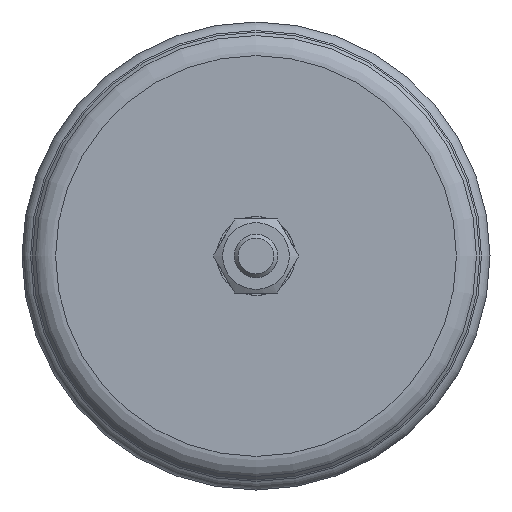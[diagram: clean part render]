
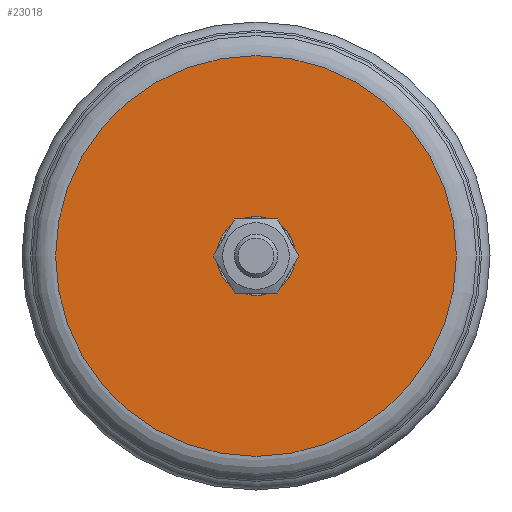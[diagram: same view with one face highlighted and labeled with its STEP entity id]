
A CAD part, front view. The second image highlights one B-rep face of the part: STEP entity #23018.
In plain terms, the highlighted planar face has unit normal (0, -1, 0).
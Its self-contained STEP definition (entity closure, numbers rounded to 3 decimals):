
#4319=FACE_BOUND('',#8046,.T.);
#6624=FACE_OUTER_BOUND('',#8045,.T.);
#8045=EDGE_LOOP('',(#21031));
#8046=EDGE_LOOP('',(#21032));
#8493=CIRCLE('',#24680,3.979);
#8502=CIRCLE('',#24699,46.035);
#10781=VERTEX_POINT('',#49313);
#10790=VERTEX_POINT('',#49341);
#14197=EDGE_CURVE('',#10781,#10781,#8493,.T.);
#14206=EDGE_CURVE('',#10790,#10790,#8502,.T.);
#21031=ORIENTED_EDGE('',*,*,#14206,.T.);
#21032=ORIENTED_EDGE('',*,*,#14197,.T.);
#21745=PLANE('',#24700);
#23018=ADVANCED_FACE('',(#6624,#4319),#21745,.T.);
#24680=AXIS2_PLACEMENT_3D('',#49314,#29645,#29646);
#24699=AXIS2_PLACEMENT_3D('',#49342,#29683,#29684);
#24700=AXIS2_PLACEMENT_3D('',#49343,#29685,#29686);
#29645=DIRECTION('center_axis',(0.,1.,0.));
#29646=DIRECTION('ref_axis',(0.,0.,-1.));
#29683=DIRECTION('center_axis',(0.,-1.,0.));
#29684=DIRECTION('ref_axis',(-1.,0.,0.));
#29685=DIRECTION('center_axis',(0.,-1.,0.));
#29686=DIRECTION('ref_axis',(0.,0.,-1.));
#49313=CARTESIAN_POINT('',(0.,-6.105,3.979));
#49314=CARTESIAN_POINT('Origin',(0.,-6.105,
0.));
#49341=CARTESIAN_POINT('',(-46.035,-6.105,0.));
#49342=CARTESIAN_POINT('Origin',(0.,-6.105,
0.));
#49343=CARTESIAN_POINT('Origin',(-23.018,-6.105,0.));
